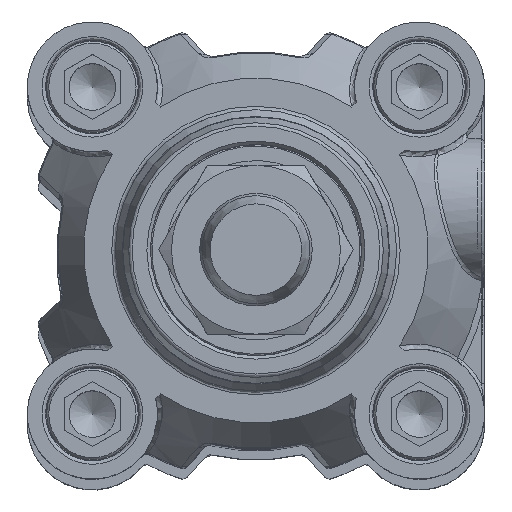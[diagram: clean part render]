
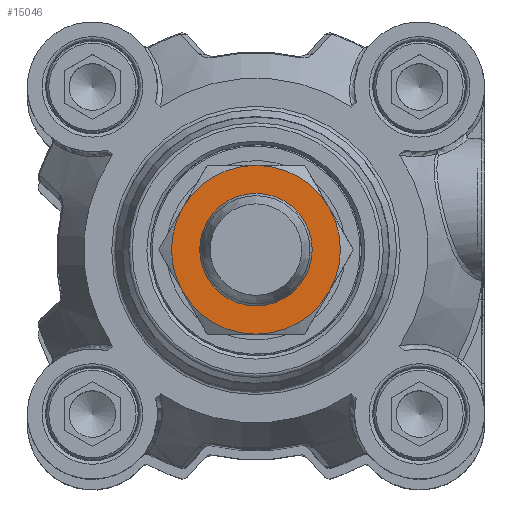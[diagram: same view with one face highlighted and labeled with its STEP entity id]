
A CAD part, top view. The second image highlights one B-rep face of the part: STEP entity #15046.
In plain terms, the highlighted planar face has unit normal (0, 0, 1) as drawn and (1, 0, 0) by its records, which use the part's own axes.
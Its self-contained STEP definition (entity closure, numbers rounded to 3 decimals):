
#769=PLANE('',#16332);
#5495=ORIENTED_EDGE('',*,*,#7216,.T.);
#5496=ORIENTED_EDGE('',*,*,#7208,.T.);
#5497=ORIENTED_EDGE('',*,*,#7205,.T.);
#5498=ORIENTED_EDGE('',*,*,#7204,.T.);
#5499=ORIENTED_EDGE('',*,*,#7206,.T.);
#5500=ORIENTED_EDGE('',*,*,#7207,.T.);
#5501=ORIENTED_EDGE('',*,*,#7209,.T.);
#7204=EDGE_CURVE('',#8310,#8320,#8939,.T.);
#7205=EDGE_CURVE('',#8306,#8310,#8940,.T.);
#7206=EDGE_CURVE('',#8320,#8317,#8941,.T.);
#7207=EDGE_CURVE('',#8317,#8313,#8942,.T.);
#7208=EDGE_CURVE('',#8300,#8306,#8943,.T.);
#7209=EDGE_CURVE('',#8313,#8300,#8944,.T.);
#7216=EDGE_CURVE('',#8321,#8321,#8951,.T.);
#8300=VERTEX_POINT('',#25317);
#8306=VERTEX_POINT('',#25338);
#8310=VERTEX_POINT('',#25356);
#8313=VERTEX_POINT('',#25375);
#8317=VERTEX_POINT('',#25393);
#8320=VERTEX_POINT('',#25410);
#8321=VERTEX_POINT('',#25440);
#8939=CIRCLE('',#16309,12.);
#8940=CIRCLE('',#16311,12.);
#8941=CIRCLE('',#16313,12.);
#8942=CIRCLE('',#16315,12.);
#8943=CIRCLE('',#16317,12.);
#8944=CIRCLE('',#16319,12.);
#8951=CIRCLE('',#16333,7.678);
#9722=EDGE_LOOP('',(#5495));
#9723=EDGE_LOOP('',(#5496,#5497,#5498,#5499,#5500,#5501));
#10513=FACE_BOUND('',#9722,.T.);
#10514=FACE_BOUND('',#9723,.T.);
#15046=ADVANCED_FACE('',(#10513,#10514),#769,.T.);
#16309=AXIS2_PLACEMENT_3D('',#25415,#19499,#19500);
#16311=AXIS2_PLACEMENT_3D('',#25417,#19503,#19504);
#16313=AXIS2_PLACEMENT_3D('',#25419,#19507,#19508);
#16315=AXIS2_PLACEMENT_3D('',#25421,#19511,#19512);
#16317=AXIS2_PLACEMENT_3D('',#25423,#19515,#19516);
#16319=AXIS2_PLACEMENT_3D('',#25425,#19519,#19520);
#16332=AXIS2_PLACEMENT_3D('',#25438,#19545,#19546);
#16333=AXIS2_PLACEMENT_3D('',#25439,#19547,#19548);
#19499=DIRECTION('',(1.,0.,0.));
#19500=DIRECTION('',(0.,1.,0.));
#19503=DIRECTION('',(1.,0.,0.));
#19504=DIRECTION('',(0.,1.,0.));
#19507=DIRECTION('',(1.,0.,0.));
#19508=DIRECTION('',(0.,1.,0.));
#19511=DIRECTION('',(1.,0.,0.));
#19512=DIRECTION('',(0.,1.,0.));
#19515=DIRECTION('',(1.,0.,0.));
#19516=DIRECTION('',(0.,1.,0.));
#19519=DIRECTION('',(1.,0.,0.));
#19520=DIRECTION('',(0.,1.,0.));
#19545=DIRECTION('',(1.,0.,0.));
#19546=DIRECTION('',(0.,0.,-1.));
#19547=DIRECTION('',(-1.,0.,0.));
#19548=DIRECTION('',(0.,0.,1.));
#25317=CARTESIAN_POINT('',(8.,-10.392,-6.));
#25338=CARTESIAN_POINT('',(8.,0.,-12.));
#25356=CARTESIAN_POINT('',(8.,10.392,-6.));
#25375=CARTESIAN_POINT('',(8.,-10.392,6.));
#25393=CARTESIAN_POINT('',(8.,0.,12.));
#25410=CARTESIAN_POINT('',(8.,10.392,6.));
#25415=CARTESIAN_POINT('',(8.,0.,0.));
#25417=CARTESIAN_POINT('',(8.,0.,0.));
#25419=CARTESIAN_POINT('',(8.,0.,0.));
#25421=CARTESIAN_POINT('',(8.,0.,0.));
#25423=CARTESIAN_POINT('',(8.,0.,0.));
#25425=CARTESIAN_POINT('',(8.,0.,0.));
#25438=CARTESIAN_POINT('',(8.,0.,0.));
#25439=CARTESIAN_POINT('',(8.,0.,0.));
#25440=CARTESIAN_POINT('',(8.,0.,7.678));
